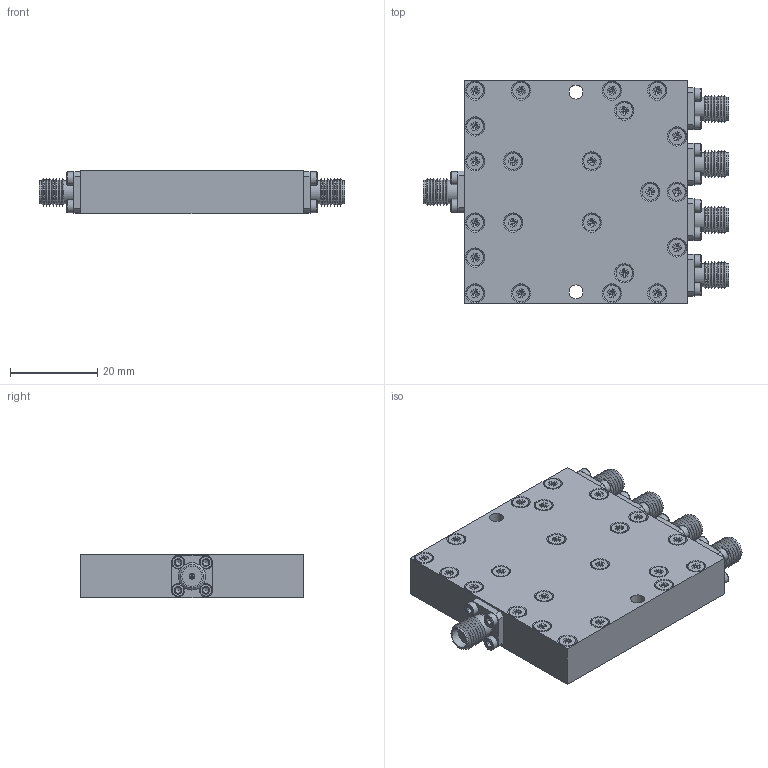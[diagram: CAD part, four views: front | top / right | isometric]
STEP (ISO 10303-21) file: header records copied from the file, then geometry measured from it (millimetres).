
FILE_DESCRIPTION(/* description */ ('Unknown'),/* implementation_level */ '2;1');
FILE_NAME(/* name */ 'DETI_MICROWAVE_4-WAY_POWER_DIVIDER_800056_DS',/* time_stamp */ '2021-06-28T11:13:44+02:00',/* author */ ('ALG'),/* organization */ ('DETI'),/* preprocessor_version */ 'ST-DEVELOPER v16.7',/* originating_system */ 'Solid Edge',/* authorisation */ 'Unknown');
FILE_SCHEMA (('AUTOMOTIVE_DESIGN {1 0 10303 214 3 1 1}'));
Length unit declared in the file: millimetre
Products named in the file (1): 800 056 0A 1601A2
Bounding box: 69.8 x 50.8 x 10 mm (x, y, z)
Volume: 27162 mm3; surface area: 11171.2 mm2
Topology: 1 solids, 66 shells, 1417 faces, 3592 edges, 2357 vertices
Faces by surface type: plane 948, cylinder 210, cone 192, torus 67
Full cylindrical faces by diameter (mm): 0.47 x5, 1.1 x5, 1.221 x20, 1.27 x10, 1.6 x20, 1.8 x20, 2 x22, 2.2 x22, 3 x20, 3.2 x2, 3.8 x22, 4.1 x5, 4.6 x5, 5.3 x10
Entity records: 48088 total; most frequent: CARTESIAN_POINT 6914, DIRECTION 6220, ORIENTED_EDGE 5848, EDGE_CURVE 2924, LINE 2188, VECTOR 2188, VERTEX_POINT 2168, FACE_BOUND 2044
